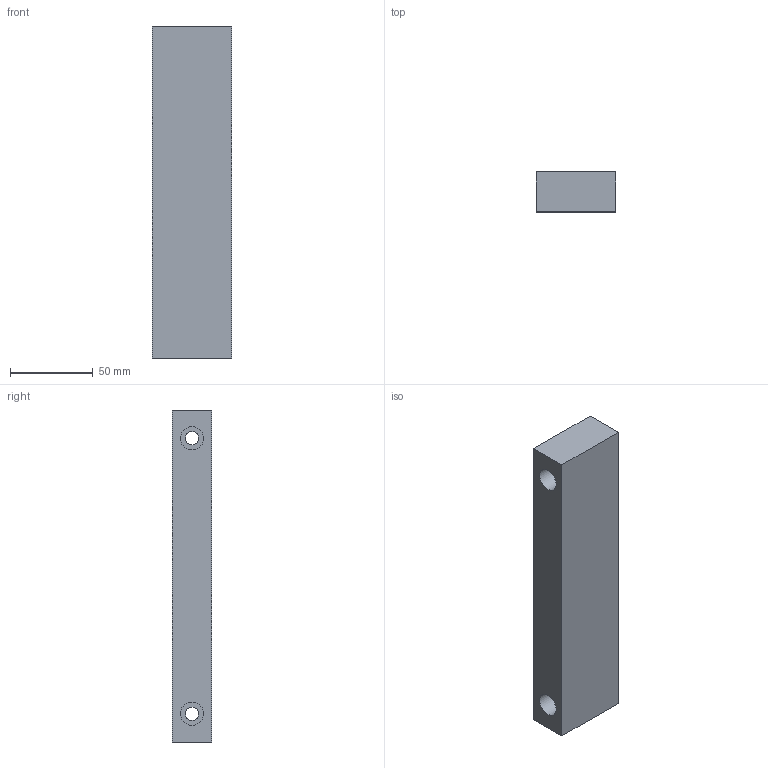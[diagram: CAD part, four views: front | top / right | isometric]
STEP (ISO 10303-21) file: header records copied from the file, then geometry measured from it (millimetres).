
FILE_DESCRIPTION (( 'STEP AP203' ), '1' );
FILE_NAME ('Tasseau_200_Fond.STEP', '2026-06-24T07:29:49', ( '' ), ( '' ), 'SwSTEP 2.0', 'SolidWorks 2024', '' );
FILE_SCHEMA (( 'CONFIG_CONTROL_DESIGN' ));
Length unit declared in the file: millimetre
Products named in the file (1): Tasseau_200_Fond_Percé
Bounding box: 48 x 24 x 200 mm (x, y, z)
Volume: 216752.9 mm3; surface area: 34672.8 mm2
Topology: 1 solids, 1 shells, 16 faces, 32 edges, 22 vertices
Faces by surface type: plane 10, cylinder 6
Full cylindrical faces by diameter (mm): 8 x2, 14 x2, 20 x2
Entity records: 459 total; most frequent: DIRECTION 70, CARTESIAN_POINT 61, ORIENTED_EDGE 48, EDGE_LOOP 30, AXIS2_PLACEMENT_3D 29, EDGE_CURVE 24, FACE_OUTER_BOUND 22, VERTEX_POINT 20
